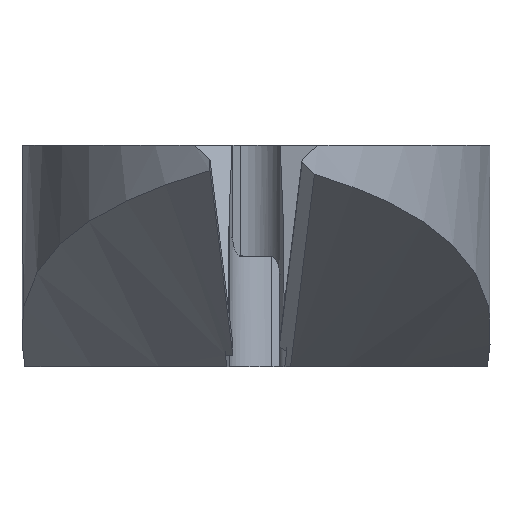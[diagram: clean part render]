
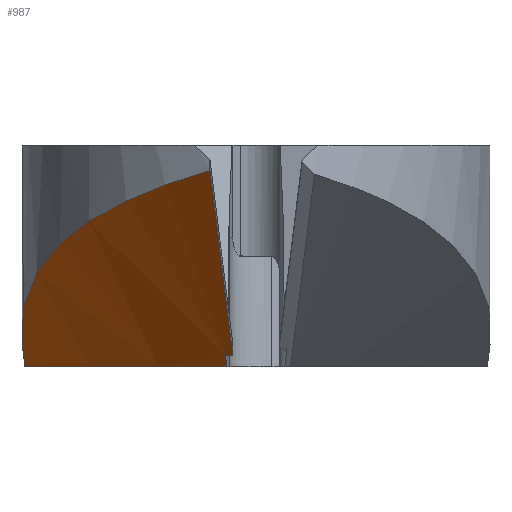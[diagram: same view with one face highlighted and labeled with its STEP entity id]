
A CAD part, left-side view. The second image highlights one B-rep face of the part: STEP entity #987.
In plain terms, the highlighted cylindrical face has radius 75 mm (diameter 150 mm), a partial arc.
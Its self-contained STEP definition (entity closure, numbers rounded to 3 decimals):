
#12 = ORIENTED_EDGE ( 'NONE', *, *, #3371, .F. ) ;
#82 = CARTESIAN_POINT ( 'NONE',  ( -16.896, 11.5, -10.805 ) ) ;
#101 = DIRECTION ( 'NONE',  ( 0.866, 0., -0.5 ) ) ;
#268 = CARTESIAN_POINT ( 'NONE',  ( -22.665, 10.656, -7.62 ) ) ;
#280 = CARTESIAN_POINT ( 'NONE',  ( -32.995, 3.407, -2.45 ) ) ;
#281 = VECTOR ( 'NONE', #3936, 1000. ) ;
#368 =( BOUNDED_CURVE ( )  B_SPLINE_CURVE ( 3, ( #738, #725, #1059, #3298 ),
 .UNSPECIFIED., .F., .T. ) 
 B_SPLINE_CURVE_WITH_KNOTS ( ( 4, 4 ),
 ( 3.147, 3.296 ),
 .UNSPECIFIED. ) 
 CURVE ( )  GEOMETRIC_REPRESENTATION_ITEM ( )  RATIONAL_B_SPLINE_CURVE ( ( 1., 0.998, 0.998, 1. ) ) 
 REPRESENTATION_ITEM ( '' )  );
#382 = FACE_OUTER_BOUND ( 'NONE', #2709, .T. ) ;
#433 = CARTESIAN_POINT ( 'NONE',  ( -16.598, 0.4, -12. ) ) ;
#446 = CARTESIAN_POINT ( 'NONE',  ( -17.679, 0., -11.377 ) ) ;
#583 = CARTESIAN_POINT ( 'NONE',  ( -23.976, 10.211, -6.935 ) ) ;
#599 = CARTESIAN_POINT ( 'NONE',  ( -34.572, 0.913, -1.624 ) ) ;
#725 = CARTESIAN_POINT ( 'NONE',  ( -16.558, 4.119, -12. ) ) ;
#738 = CARTESIAN_POINT ( 'NONE',  ( -16.598, 0.4, -12. ) ) ;
#905 = CARTESIAN_POINT ( 'NONE',  ( -25.696, 9.484, -6.054 ) ) ;
#941 = VERTEX_POINT ( 'NONE', #446 ) ;
#975 = EDGE_CURVE ( 'NONE', #3730, #941, #1982, .T. ) ;
#985 = VERTEX_POINT ( 'NONE', #82 ) ;
#987 = ADVANCED_FACE ( 'NONE', ( #382 ), #1871, .T. ) ;
#1010 = EDGE_CURVE ( 'NONE', #2296, #1897, #1022, .T. ) ;
#1022 = LINE ( 'NONE', #1717, #2732 ) ;
#1059 = CARTESIAN_POINT ( 'NONE',  ( -15.967, 7.825, -12. ) ) ;
#1187 = ORIENTED_EDGE ( 'NONE', *, *, #1010, .F. ) ;
#1216 = CARTESIAN_POINT ( 'NONE',  ( -28.126, 8.076, -4.844 ) ) ;
#1529 = EDGE_CURVE ( 'NONE', #941, #2296, #2084, .T. ) ;
#1547 = CARTESIAN_POINT ( 'NONE',  ( -30.01, 6.608, -3.922 ) ) ;
#1597 = CARTESIAN_POINT ( 'NONE',  ( 2.382, 0., 63.643 ) ) ;
#1628 = CARTESIAN_POINT ( 'NONE',  ( -17.679, 0.4, -11.376 ) ) ;
#1632 = DIRECTION ( 'NONE',  ( 0.866, 0., -0.5 ) ) ;
#1717 = CARTESIAN_POINT ( 'NONE',  ( -25.134, 0.4, -7.071 ) ) ;
#1865 = CARTESIAN_POINT ( 'NONE',  ( -31.079, 5.61, -3.399 ) ) ;
#1866 = EDGE_CURVE ( 'NONE', #3038, #985, #2837, .T. ) ;
#1871 = CYLINDRICAL_SURFACE ( 'NONE', #2791, 75. ) ;
#1897 = VERTEX_POINT ( 'NONE', #433 ) ;
#1982 = LINE ( 'NONE', #3664, #281 ) ;
#1996 = VECTOR ( 'NONE', #2513, 1000. ) ;
#2084 =( BOUNDED_CURVE ( )  B_SPLINE_CURVE ( 3, ( #3993, #2374, #3591, #3844 ),
 .UNSPECIFIED., .F., .F. ) 
 B_SPLINE_CURVE_WITH_KNOTS ( ( 4, 4 ),
 ( 0., 0.005 ),
 .UNSPECIFIED. ) 
 CURVE ( )  GEOMETRIC_REPRESENTATION_ITEM ( )  RATIONAL_B_SPLINE_CURVE ( ( 1., 1., 1., 1. ) ) 
 REPRESENTATION_ITEM ( '' )  );
#2144 = ORIENTED_EDGE ( 'NONE', *, *, #1529, .F. ) ;
#2172 = CARTESIAN_POINT ( 'NONE',  ( -20.467, 11.263, -8.787 ) ) ;
#2188 = CARTESIAN_POINT ( 'NONE',  ( -32.396, 4.177, -2.75 ) ) ;
#2296 = VERTEX_POINT ( 'NONE', #1628 ) ;
#2317 = CARTESIAN_POINT ( 'NONE',  ( -35., 0., -1.377 ) ) ;
#2366 = CARTESIAN_POINT ( 'NONE',  ( -24.691, 11.5, -6.304 ) ) ;
#2374 = CARTESIAN_POINT ( 'NONE',  ( -17.679, 0.133, -11.377 ) ) ;
#2476 = ORIENTED_EDGE ( 'NONE', *, *, #1866, .F. ) ;
#2497 = CARTESIAN_POINT ( 'NONE',  ( -23.103, 10.518, -7.39 ) ) ;
#2511 = CARTESIAN_POINT ( 'NONE',  ( -34.083, 1.775, -1.887 ) ) ;
#2513 = DIRECTION ( 'NONE',  ( -0.866, 0., 0.5 ) ) ;
#2709 = EDGE_LOOP ( 'NONE', ( #12, #1187, #2144, #3453, #3698, #2476 ) ) ;
#2732 = VECTOR ( 'NONE', #1632, 1000. ) ;
#2791 = AXIS2_PLACEMENT_3D ( 'NONE', #1597, #101, #2976 ) ;
#2814 = CARTESIAN_POINT ( 'NONE',  ( -24.412, 10.04, -6.71 ) ) ;
#2829 = CARTESIAN_POINT ( 'NONE',  ( -35., 0., -1.377 ) ) ;
#2837 = LINE ( 'NONE', #2366, #1996 ) ;
#2976 = DIRECTION ( 'NONE',  ( -0.5, 0., -0.866 ) ) ;
#2982 = EDGE_CURVE ( 'NONE', #985, #3730, #3931, .T. ) ;
#3038 = VERTEX_POINT ( 'NONE', #3155 ) ;
#3121 = CARTESIAN_POINT ( 'NONE',  ( -18.689, 11.5, -9.77 ) ) ;
#3137 = CARTESIAN_POINT ( 'NONE',  ( -26.525, 9.055, -5.638 ) ) ;
#3155 = CARTESIAN_POINT ( 'NONE',  ( -14.826, 11.5, -12. ) ) ;
#3298 = CARTESIAN_POINT ( 'NONE',  ( -14.826, 11.5, -12. ) ) ;
#3371 = EDGE_CURVE ( 'NONE', #1897, #3038, #368, .T. ) ;
#3446 = CARTESIAN_POINT ( 'NONE',  ( -16.896, 11.5, -10.805 ) ) ;
#3453 = ORIENTED_EDGE ( 'NONE', *, *, #975, .F. ) ;
#3459 = CARTESIAN_POINT ( 'NONE',  ( -28.899, 7.527, -4.465 ) ) ;
#3591 = CARTESIAN_POINT ( 'NONE',  ( -17.679, 0.267, -11.376 ) ) ;
#3664 = CARTESIAN_POINT ( 'NONE',  ( -25.135, 0., -7.072 ) ) ;
#3698 = ORIENTED_EDGE ( 'NONE', *, *, #2982, .F. ) ;
#3730 = VERTEX_POINT ( 'NONE', #2317 ) ;
#3778 = CARTESIAN_POINT ( 'NONE',  ( -30.373, 6.285, -3.744 ) ) ;
#3844 = CARTESIAN_POINT ( 'NONE',  ( -17.679, 0.4, -11.376 ) ) ;
#3931 = B_SPLINE_CURVE_WITH_KNOTS ( 'NONE', 3,
 ( #3446, #3121, #2172, #268, #2497, #583, #2814, #905, #3137, #1216, #3459, #1547, #3778, #1865, #4123, #2188, #280, #2511, #599, #2829 ),
 .UNSPECIFIED., .F., .F.,
 ( 4, 2, 2, 2, 2, 2, 2, 2, 2, 4 ),
 ( 0., 0.006, 0.008, 0.009, 0.012, 0.015, 0.017, 0.018, 0.021, 0.025 ),
 .UNSPECIFIED. ) ;
#3936 = DIRECTION ( 'NONE',  ( 0.866, 0., -0.5 ) ) ;
#3993 = CARTESIAN_POINT ( 'NONE',  ( -17.679, 0., -11.377 ) ) ;
#4123 = CARTESIAN_POINT ( 'NONE',  ( -31.418, 5.26, -3.233 ) ) ;
